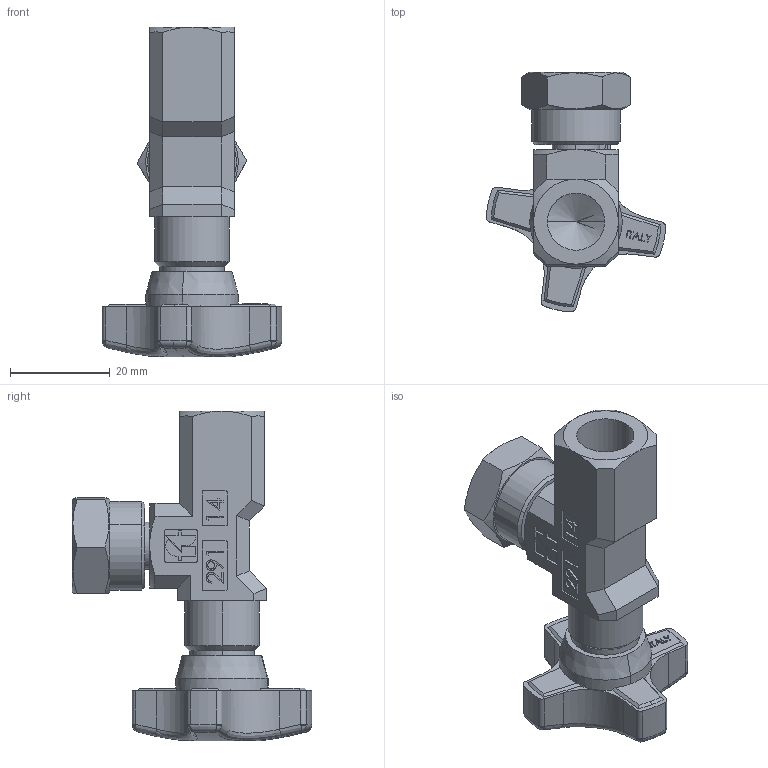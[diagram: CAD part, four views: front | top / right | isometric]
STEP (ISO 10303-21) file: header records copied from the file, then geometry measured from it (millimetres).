
FILE_DESCRIPTION (( 'STEP AP203' ), '1' );
FILE_NAME ('FT291-14FF.STEP', '2006-12-29T14:32:39', ( ' ' ), ( '' ), 'SwSTEP 2.0', 'SolidWorks 2006104', '' );
FILE_SCHEMA (( 'CONFIG_CONTROL_DESIGN' ));
Length unit declared in the file: millimetre
Products named in the file (5): ViteFT291-14; CorpoFT291-14FF; FT291-14FF; VolantinoFT291-14; DadoFT291-14
Assembly tree (4 placements, depth 2):
  FT291-14FF
    CorpoFT291-14FF
    ViteFT291-14
    DadoFT291-14
    VolantinoFT291-14
Bounding box: 35.94 x 47.97 x 66.08 mm (x, y, z)
Volume: 21137.6 mm3; surface area: 9767.2 mm2
Topology: 4 solids, 4 shells, 483 faces, 1232 edges, 786 vertices
Faces by surface type: plane 302, cylinder 80, bspline 45, cone 45, torus 9, sphere 2
Entity records: 25224 total; most frequent: CARTESIAN_POINT 13302, ORIENTED_EDGE 2444, DIRECTION 2214, EDGE_CURVE 1222, LINE 808, VECTOR 808, VERTEX_POINT 786, AXIS2_PLACEMENT_3D 703
